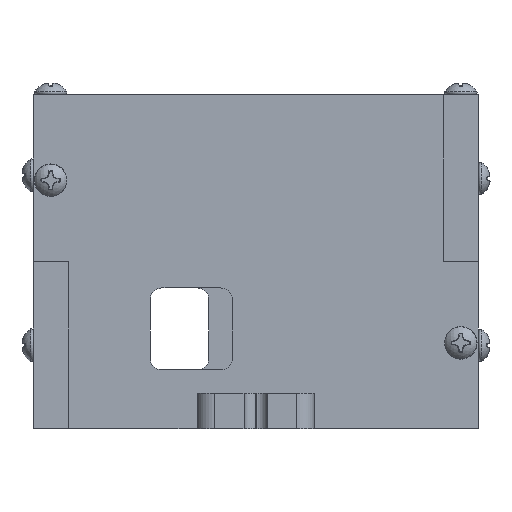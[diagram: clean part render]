
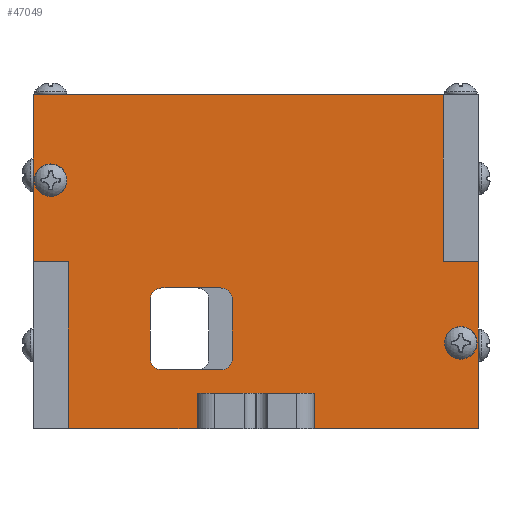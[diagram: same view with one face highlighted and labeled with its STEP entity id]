
A CAD part, left-side view. The second image highlights one B-rep face of the part: STEP entity #47049.
In plain terms, the highlighted planar face has unit normal (-1, 0, 0).
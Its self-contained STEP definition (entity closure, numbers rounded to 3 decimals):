
#2358=PLANE('',#48386);
#2546=FACE_BOUND('',#7696,.T.);
#2547=FACE_BOUND('',#7697,.T.);
#2548=FACE_BOUND('',#7698,.T.);
#5117=FACE_OUTER_BOUND('',#7695,.T.);
#7695=EDGE_LOOP('',(#42290,#42291,#42292,#42293,#42294,#42295,#42296,#42297,
#42298,#42299,#42300,#42301));
#7696=EDGE_LOOP('',(#42302));
#7697=EDGE_LOOP('',(#42303));
#7698=EDGE_LOOP('',(#42304,#42305,#42306,#42307,#42308,#42309,#42310,#42311));
#8084=CIRCLE('',#48380,1.5);
#8085=CIRCLE('',#48382,1.5);
#8086=CIRCLE('',#48387,2.);
#8087=CIRCLE('',#48388,2.);
#8088=CIRCLE('',#48389,2.);
#8089=CIRCLE('',#48390,2.);
#14709=LINE('',#96029,#18706);
#14712=LINE('',#96034,#18709);
#14714=LINE('',#96038,#18711);
#14716=LINE('',#96042,#18713);
#14717=LINE('',#96044,#18714);
#14718=LINE('',#96046,#18715);
#14719=LINE('',#96048,#18716);
#14720=LINE('',#96050,#18717);
#14721=LINE('',#96052,#18718);
#14722=LINE('',#96054,#18719);
#14723=LINE('',#96056,#18720);
#14724=LINE('',#96057,#18721);
#14725=LINE('',#96062,#18722);
#14726=LINE('',#96066,#18723);
#14727=LINE('',#96070,#18724);
#14728=LINE('',#96073,#18725);
#18706=VECTOR('',#54702,10.);
#18709=VECTOR('',#54707,10.);
#18711=VECTOR('',#54711,10.);
#18713=VECTOR('',#54715,10.);
#18714=VECTOR('',#54716,10.);
#18715=VECTOR('',#54717,10.);
#18716=VECTOR('',#54718,10.);
#18717=VECTOR('',#54719,10.);
#18718=VECTOR('',#54720,10.);
#18719=VECTOR('',#54721,10.);
#18720=VECTOR('',#54722,10.);
#18721=VECTOR('',#54723,10.);
#18722=VECTOR('',#54726,10.);
#18723=VECTOR('',#54729,10.);
#18724=VECTOR('',#54732,10.);
#18725=VECTOR('',#54735,10.);
#23409=VERTEX_POINT('',#96019);
#23410=VERTEX_POINT('',#96023);
#23411=VERTEX_POINT('',#96027);
#23412=VERTEX_POINT('',#96028);
#23413=VERTEX_POINT('',#96033);
#23414=VERTEX_POINT('',#96037);
#23415=VERTEX_POINT('',#96041);
#23416=VERTEX_POINT('',#96043);
#23417=VERTEX_POINT('',#96045);
#23418=VERTEX_POINT('',#96047);
#23419=VERTEX_POINT('',#96049);
#23420=VERTEX_POINT('',#96051);
#23421=VERTEX_POINT('',#96053);
#23422=VERTEX_POINT('',#96055);
#23423=VERTEX_POINT('',#96058);
#23424=VERTEX_POINT('',#96059);
#23425=VERTEX_POINT('',#96061);
#23426=VERTEX_POINT('',#96063);
#23427=VERTEX_POINT('',#96065);
#23428=VERTEX_POINT('',#96067);
#23429=VERTEX_POINT('',#96069);
#23430=VERTEX_POINT('',#96071);
#30292=EDGE_CURVE('',#23409,#23409,#8084,.T.);
#30294=EDGE_CURVE('',#23410,#23410,#8085,.T.);
#30295=EDGE_CURVE('',#23411,#23412,#14709,.T.);
#30298=EDGE_CURVE('',#23412,#23413,#14712,.T.);
#30300=EDGE_CURVE('',#23414,#23411,#14714,.T.);
#30302=EDGE_CURVE('',#23415,#23413,#14716,.T.);
#30303=EDGE_CURVE('',#23415,#23416,#14717,.T.);
#30304=EDGE_CURVE('',#23416,#23417,#14718,.T.);
#30305=EDGE_CURVE('',#23417,#23418,#14719,.T.);
#30306=EDGE_CURVE('',#23418,#23419,#14720,.T.);
#30307=EDGE_CURVE('',#23420,#23419,#14721,.T.);
#30308=EDGE_CURVE('',#23421,#23420,#14722,.T.);
#30309=EDGE_CURVE('',#23422,#23421,#14723,.T.);
#30310=EDGE_CURVE('',#23414,#23422,#14724,.T.);
#30311=EDGE_CURVE('',#23423,#23424,#8086,.T.);
#30312=EDGE_CURVE('',#23424,#23425,#14725,.T.);
#30313=EDGE_CURVE('',#23425,#23426,#8087,.T.);
#30314=EDGE_CURVE('',#23426,#23427,#14726,.T.);
#30315=EDGE_CURVE('',#23427,#23428,#8088,.T.);
#30316=EDGE_CURVE('',#23428,#23429,#14727,.T.);
#30317=EDGE_CURVE('',#23429,#23430,#8089,.T.);
#30318=EDGE_CURVE('',#23430,#23423,#14728,.T.);
#42290=ORIENTED_EDGE('',*,*,#30300,.T.);
#42291=ORIENTED_EDGE('',*,*,#30295,.T.);
#42292=ORIENTED_EDGE('',*,*,#30298,.T.);
#42293=ORIENTED_EDGE('',*,*,#30302,.F.);
#42294=ORIENTED_EDGE('',*,*,#30303,.T.);
#42295=ORIENTED_EDGE('',*,*,#30304,.T.);
#42296=ORIENTED_EDGE('',*,*,#30305,.T.);
#42297=ORIENTED_EDGE('',*,*,#30306,.T.);
#42298=ORIENTED_EDGE('',*,*,#30307,.F.);
#42299=ORIENTED_EDGE('',*,*,#30308,.F.);
#42300=ORIENTED_EDGE('',*,*,#30309,.F.);
#42301=ORIENTED_EDGE('',*,*,#30310,.F.);
#42302=ORIENTED_EDGE('',*,*,#30292,.T.);
#42303=ORIENTED_EDGE('',*,*,#30294,.T.);
#42304=ORIENTED_EDGE('',*,*,#30311,.T.);
#42305=ORIENTED_EDGE('',*,*,#30312,.T.);
#42306=ORIENTED_EDGE('',*,*,#30313,.T.);
#42307=ORIENTED_EDGE('',*,*,#30314,.T.);
#42308=ORIENTED_EDGE('',*,*,#30315,.T.);
#42309=ORIENTED_EDGE('',*,*,#30316,.T.);
#42310=ORIENTED_EDGE('',*,*,#30317,.T.);
#42311=ORIENTED_EDGE('',*,*,#30318,.T.);
#47049=ADVANCED_FACE('',(#5117,#2546,#2547,#2548),#2358,.F.);
#48380=AXIS2_PLACEMENT_3D('',#96021,#54693,#54694);
#48382=AXIS2_PLACEMENT_3D('',#96025,#54698,#54699);
#48386=AXIS2_PLACEMENT_3D('',#96040,#54713,#54714);
#48387=AXIS2_PLACEMENT_3D('',#96060,#54724,#54725);
#48388=AXIS2_PLACEMENT_3D('',#96064,#54727,#54728);
#48389=AXIS2_PLACEMENT_3D('',#96068,#54730,#54731);
#48390=AXIS2_PLACEMENT_3D('',#96072,#54733,#54734);
#54693=DIRECTION('center_axis',(1.,0.,0.));
#54694=DIRECTION('ref_axis',(0.,1.,0.));
#54698=DIRECTION('center_axis',(1.,0.,0.));
#54699=DIRECTION('ref_axis',(0.,1.,0.));
#54702=DIRECTION('',(0.,-1.,0.));
#54707=DIRECTION('',(0.,0.,-1.));
#54711=DIRECTION('',(0.,0.,1.));
#54713=DIRECTION('center_axis',(1.,0.,0.));
#54714=DIRECTION('ref_axis',(0.,1.,0.));
#54715=DIRECTION('',(0.,1.,0.));
#54716=DIRECTION('',(0.,0.,1.));
#54717=DIRECTION('',(0.,1.,0.));
#54718=DIRECTION('',(0.,0.,1.));
#54719=DIRECTION('',(0.,1.,0.));
#54720=DIRECTION('',(0.,0.,1.));
#54721=DIRECTION('',(0.,1.,0.));
#54722=DIRECTION('',(0.,0.,1.));
#54723=DIRECTION('',(0.,1.,0.));
#54724=DIRECTION('center_axis',(1.,0.,0.));
#54725=DIRECTION('ref_axis',(0.,-1.,0.));
#54726=DIRECTION('',(0.,1.,0.));
#54727=DIRECTION('center_axis',(1.,0.,0.));
#54728=DIRECTION('ref_axis',(0.,0.,-1.));
#54729=DIRECTION('',(0.,0.,1.));
#54730=DIRECTION('center_axis',(1.,0.,0.));
#54731=DIRECTION('ref_axis',(0.,1.,0.));
#54732=DIRECTION('',(0.,-1.,0.));
#54733=DIRECTION('center_axis',(1.,0.,0.));
#54734=DIRECTION('ref_axis',(0.,0.,1.));
#54735=DIRECTION('',(0.,0.,-1.));
#96019=CARTESIAN_POINT('',(-11.,60.5,36.437));
#96021=CARTESIAN_POINT('Origin',(-11.,62.,36.437));
#96023=CARTESIAN_POINT('',(-11.,-9.5,8.563));
#96025=CARTESIAN_POINT('Origin',(-11.,-8.,8.563));
#96027=CARTESIAN_POINT('',(-11.,37.,0.));
#96028=CARTESIAN_POINT('',(-11.,17.,0.));
#96029=CARTESIAN_POINT('',(-11.,27.,0.));
#96033=CARTESIAN_POINT('',(-11.,17.,-6.));
#96034=CARTESIAN_POINT('',(-11.,17.,11.25));
#96037=CARTESIAN_POINT('',(-11.,37.,-6.));
#96038=CARTESIAN_POINT('',(-11.,37.,11.25));
#96040=CARTESIAN_POINT('Origin',(-11.,27.,22.5));
#96041=CARTESIAN_POINT('',(-11.,-11.,-6.));
#96042=CARTESIAN_POINT('',(-11.,-5.,-6.));
#96043=CARTESIAN_POINT('',(-11.,-11.,22.5));
#96044=CARTESIAN_POINT('',(-11.,-11.,22.5));
#96045=CARTESIAN_POINT('',(-11.,-5.,22.5));
#96046=CARTESIAN_POINT('',(-11.,-5.,22.5));
#96047=CARTESIAN_POINT('',(-11.,-5.,51.));
#96048=CARTESIAN_POINT('',(-11.,-5.,0.));
#96049=CARTESIAN_POINT('',(-11.,65.,51.));
#96050=CARTESIAN_POINT('',(-11.,59.,51.));
#96051=CARTESIAN_POINT('',(-11.,65.,22.5));
#96052=CARTESIAN_POINT('',(-11.,65.,51.));
#96053=CARTESIAN_POINT('',(-11.,59.,22.5));
#96054=CARTESIAN_POINT('',(-11.,59.,22.5));
#96055=CARTESIAN_POINT('',(-11.,59.,-6.));
#96056=CARTESIAN_POINT('',(-11.,59.,45.));
#96057=CARTESIAN_POINT('',(-11.,-5.,-6.));
#96058=CARTESIAN_POINT('',(-11.,31.,6.));
#96059=CARTESIAN_POINT('',(-11.,33.,4.));
#96060=CARTESIAN_POINT('Origin',(-11.,33.,6.));
#96061=CARTESIAN_POINT('',(-11.,43.,4.));
#96062=CARTESIAN_POINT('',(-11.,33.,4.));
#96063=CARTESIAN_POINT('',(-11.,45.,6.));
#96064=CARTESIAN_POINT('Origin',(-11.,43.,6.));
#96065=CARTESIAN_POINT('',(-11.,45.,16.));
#96066=CARTESIAN_POINT('',(-11.,45.,6.));
#96067=CARTESIAN_POINT('',(-11.,43.,18.));
#96068=CARTESIAN_POINT('Origin',(-11.,43.,16.));
#96069=CARTESIAN_POINT('',(-11.,33.,18.));
#96070=CARTESIAN_POINT('',(-11.,43.,18.));
#96071=CARTESIAN_POINT('',(-11.,31.,16.));
#96072=CARTESIAN_POINT('Origin',(-11.,33.,16.));
#96073=CARTESIAN_POINT('',(-11.,31.,16.));
